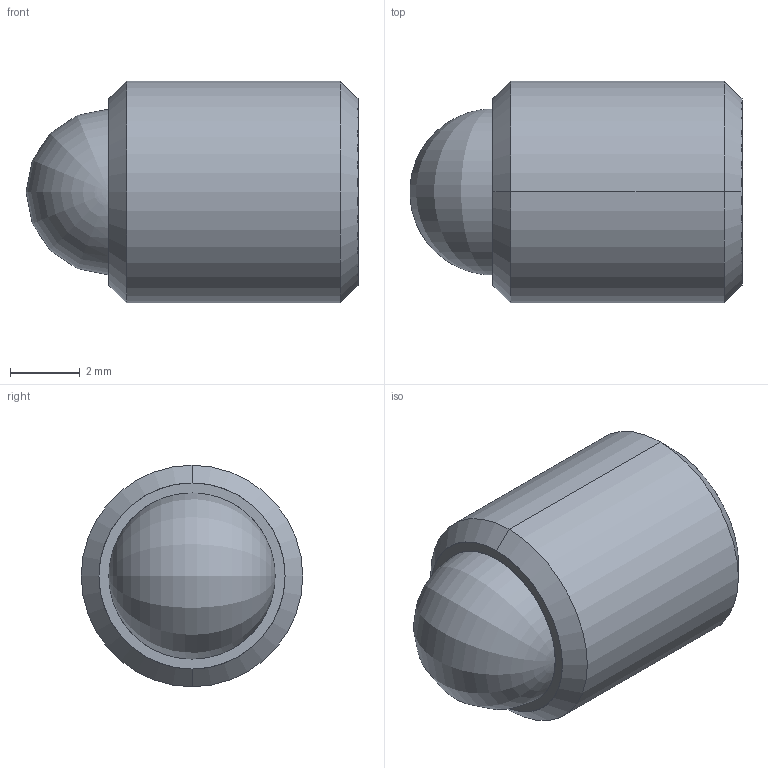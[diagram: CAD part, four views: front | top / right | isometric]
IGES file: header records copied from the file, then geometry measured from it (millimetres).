
Start section: SolidWorks IGES file using analytic representation for surfaces
Global section: file name: C:\Users\workpc\Desktop\KMA Solidworks\TS250-80 Series\TS250-80 SLDW\TS250-80-375-AA.IGS; native system: SolidWorks 2013; preprocessor: SolidWorks 2013; author: workpc; date: 130211.162532; units: inch
Bounding box: 9.52 x 6.35 x 6.35 mm (x, y, z)
Surface area: 310 mm2 (no closed solid volume)
Topology: 0 solids, 0 shells, 20 faces, 204 edges, 200 vertices
Faces by surface type: revolution 10, bspline 10
